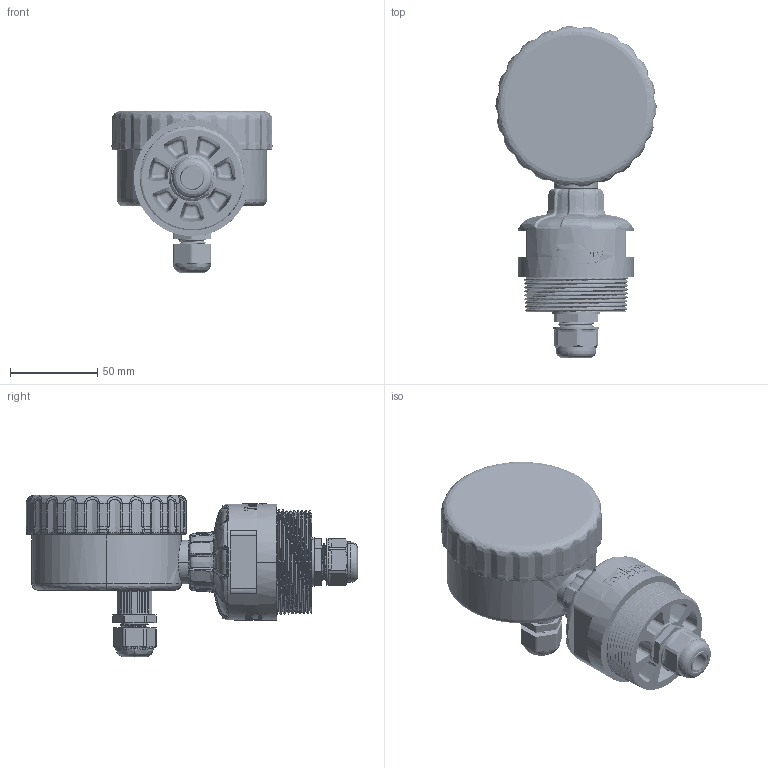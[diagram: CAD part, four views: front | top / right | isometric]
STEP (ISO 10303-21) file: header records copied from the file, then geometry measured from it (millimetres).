
FILE_DESCRIPTION (( 'STEP AP214' ), '1' );
FILE_NAME ('TANK PRO.STEP', '2023-03-02T14:54:27', ( '' ), ( '' ), 'SwSTEP 2.0', 'SolidWorks 2022', '' );
FILE_SCHEMA (( 'AUTOMOTIVE_DESIGN' ));
Length unit declared in the file: millimetre
Products named in the file (13): WIRE CONNECTOR 2IN NPT 360_V-10.igs; M12 MALE TO M16 FEMALE CON V-4.igs; TANK PRO STICKER.igs; NPT .5 CONNECTOR.igs; 360 BASE PLATE V-6.igs; TANK PRO; TANK PRO.igs; M16X1.5 CONNECTOR.igs; RUBBER STOPPER.igs; Lid-V-F.igs; LED DISPLAY.igs; M16X1.5 CONNECTOR CAP.igs; 360 CON BASE V-F.igs
Assembly tree (12 placements, depth 3):
  TANK PRO
    TANK PRO.igs
      360 BASE PLATE V-6.igs
      360 CON BASE V-F.igs
      LED DISPLAY.igs
      Lid-V-F.igs
      NPT .5 CONNECTOR.igs
      RUBBER STOPPER.igs
      WIRE CONNECTOR 2IN NPT 360_V-10.igs
      M12 MALE TO M16 FEMALE CON V-4.igs
      M16X1.5 CONNECTOR CAP.igs
      M16X1.5 CONNECTOR.igs
      TANK PRO STICKER.igs
Bounding box: 92.4 x 190.32 x 92.8 mm (x, y, z)
Volume: 316844.7 mm3; surface area: 150488.5 mm2
Topology: 23 solids, 25 shells, 4003 faces, 10298 edges, 6588 vertices
Faces by surface type: bspline 4003
Entity records: 255482 total; most frequent: CARTESIAN_POINT 173610, ORIENTED_EDGE 20532, EDGE_CURVE 10266, B_SPLINE_CURVE_WITH_KNOTS 8342, VERTEX_POINT 6582, EDGE_LOOP 4318, FACE_OUTER_BOUND 4003, ADVANCED_FACE 4003
